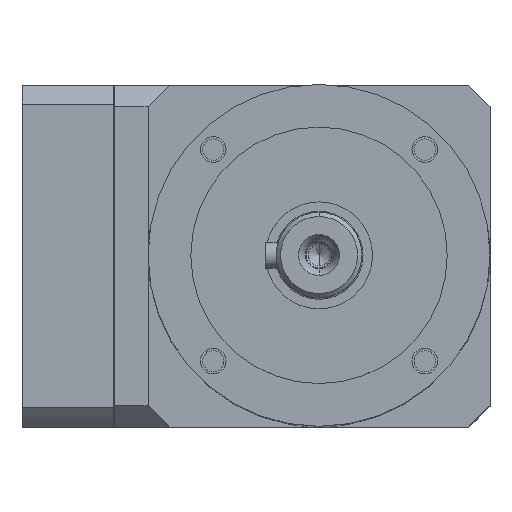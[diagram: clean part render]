
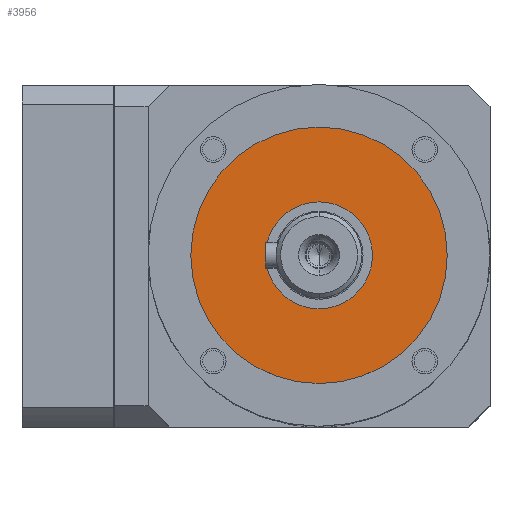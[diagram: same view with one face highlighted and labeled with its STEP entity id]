
A CAD part, top view. The second image highlights one B-rep face of the part: STEP entity #3956.
In plain terms, the highlighted planar face has unit normal (0, 0, 1).
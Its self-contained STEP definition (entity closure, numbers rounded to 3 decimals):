
#171=CARTESIAN_POINT('',(69.5,0.,142.));
#172=DIRECTION('',(0.,0.,-1.));
#173=DIRECTION('',(0.,-1.,0.));
#174=AXIS2_PLACEMENT_3D('',#171,#172,#173);
#176=CARTESIAN_POINT('',(69.5,0.,142.));
#177=DIRECTION('',(0.,0.,1.));
#178=DIRECTION('',(0.,-1.,0.));
#179=AXIS2_PLACEMENT_3D('',#176,#177,#178);
#186=CARTESIAN_POINT('',(69.5,0.,142.));
#187=DIRECTION('',(0.,0.,1.));
#188=DIRECTION('',(0.,-1.,0.));
#189=AXIS2_PLACEMENT_3D('',#186,#187,#188);
#2691=CARTESIAN_POINT('',(69.5,0.,142.));
#2692=DIRECTION('',(0.,0.,-1.));
#2693=DIRECTION('',(0.,-1.,0.));
#2694=AXIS2_PLACEMENT_3D('',#2691,#2692,#2693);
#2917=CARTESIAN_POINT('',(69.5,-12.5,142.));
#2919=VERTEX_POINT('',#2917);
#2921=CARTESIAN_POINT('',(69.5,12.5,142.));
#2923=VERTEX_POINT('',#2921);
#2924=CARTESIAN_POINT('',(69.5,-30.,142.));
#2925=CARTESIAN_POINT('',(69.5,30.,142.));
#2926=VERTEX_POINT('',#2924);
#2927=VERTEX_POINT('',#2925);
#3941=CARTESIAN_POINT('',(69.5,0.,142.));
#3942=DIRECTION('',(0.,0.,1.));
#3943=DIRECTION('',(0.,1.,0.));
#3944=AXIS2_PLACEMENT_3D('',#3941,#3942,#3943);
#3945=PLANE('',#3944);
#3947=ORIENTED_EDGE('',*,*,#3946,.F.);
#3949=ORIENTED_EDGE('',*,*,#3948,.T.);
#3950=EDGE_LOOP('',(#3947,#3949));
#3951=FACE_OUTER_BOUND('',#3950,.F.);
#3952=ORIENTED_EDGE('',*,*,#3927,.F.);
#3953=ORIENTED_EDGE('',*,*,#3909,.T.);
#3954=EDGE_LOOP('',(#3952,#3953));
#3955=FACE_BOUND('',#3954,.F.);
#175=CIRCLE('',#174,12.5);
#180=CIRCLE('',#179,12.5);
#190=CIRCLE('',#189,30.);
#2695=CIRCLE('',#2694,30.);
#3909=EDGE_CURVE('',#2919,#2923,#180,.T.);
#3927=EDGE_CURVE('',#2919,#2923,#175,.T.);
#3946=EDGE_CURVE('',#2926,#2927,#190,.T.);
#3948=EDGE_CURVE('',#2926,#2927,#2695,.T.);
#3956=ADVANCED_FACE('',(#3951,#3955),#3945,.T.);
